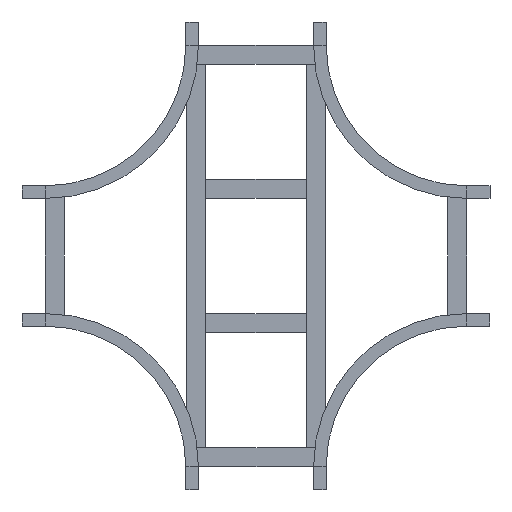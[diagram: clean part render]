
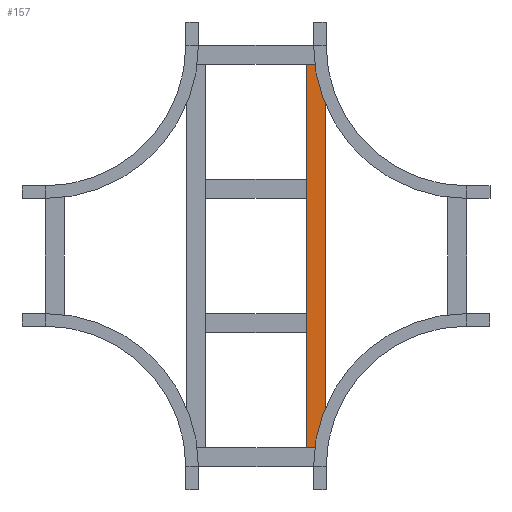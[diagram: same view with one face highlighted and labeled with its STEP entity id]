
A CAD part, front view. The second image highlights one B-rep face of the part: STEP entity #157.
In plain terms, the highlighted planar face has unit normal (0, -1, 0).
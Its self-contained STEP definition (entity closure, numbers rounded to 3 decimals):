
#7 = CARTESIAN_POINT ( 'NONE',  ( 409.5, 0., 20.25 ) ) ;
#18 = ORIENTED_EDGE ( 'NONE', *, *, #990, .F. ) ;
#107 = VECTOR ( 'NONE', #545, 1000. ) ;
#113 = LINE ( 'NONE', #1317, #107 ) ;
#122 = VERTEX_POINT ( 'NONE', #311 ) ;
#150 = ORIENTED_EDGE ( 'NONE', *, *, #1360, .F. ) ;
#157 = ADVANCED_FACE ( 'NONE', ( #414 ), #516, .F. ) ;
#226 = CARTESIAN_POINT ( 'NONE',  ( 409.5, 0., 20.25 ) ) ;
#286 = DIRECTION ( 'NONE',  ( 0., 1., 0. ) ) ;
#311 = CARTESIAN_POINT ( 'NONE',  ( -409.5, 0., 20.25 ) ) ;
#321 = VECTOR ( 'NONE', #617, 1000. ) ;
#339 = AXIS2_PLACEMENT_3D ( 'NONE', #1297, #286, #1289 ) ;
#346 = ORIENTED_EDGE ( 'NONE', *, *, #1155, .T. ) ;
#414 = FACE_OUTER_BOUND ( 'NONE', #1001, .T. ) ;
#432 = CARTESIAN_POINT ( 'NONE',  ( -409.5, 0., -20.25 ) ) ;
#501 = LINE ( 'NONE', #627, #321 ) ;
#516 = PLANE ( 'NONE',  #339 ) ;
#535 = VECTOR ( 'NONE', #585, 1000. ) ;
#545 = DIRECTION ( 'NONE',  ( -1., 0., 0. ) ) ;
#548 = LINE ( 'NONE', #7, #965 ) ;
#557 = VERTEX_POINT ( 'NONE', #432 ) ;
#566 = CARTESIAN_POINT ( 'NONE',  ( 409.5, 0., 20.25 ) ) ;
#585 = DIRECTION ( 'NONE',  ( -1., 0., 0. ) ) ;
#617 = DIRECTION ( 'NONE',  ( 0., 0., -1. ) ) ;
#627 = CARTESIAN_POINT ( 'NONE',  ( -409.5, 0., 20.25 ) ) ;
#680 = ORIENTED_EDGE ( 'NONE', *, *, #1274, .T. ) ;
#790 = LINE ( 'NONE', #566, #535 ) ;
#908 = VERTEX_POINT ( 'NONE', #226 ) ;
#965 = VECTOR ( 'NONE', #1103, 1000. ) ;
#990 = EDGE_CURVE ( 'NONE', #908, #1199, #548, .T. ) ;
#1001 = EDGE_LOOP ( 'NONE', ( #680, #150, #18, #346 ) ) ;
#1103 = DIRECTION ( 'NONE',  ( 0., 0., -1. ) ) ;
#1155 = EDGE_CURVE ( 'NONE', #908, #122, #790, .T. ) ;
#1199 = VERTEX_POINT ( 'NONE', #1356 ) ;
#1274 = EDGE_CURVE ( 'NONE', #122, #557, #501, .T. ) ;
#1289 = DIRECTION ( 'NONE',  ( 0., 0., 1. ) ) ;
#1297 = CARTESIAN_POINT ( 'NONE',  ( 409.5, 0., 20.25 ) ) ;
#1317 = CARTESIAN_POINT ( 'NONE',  ( 409.5, 0., -20.25 ) ) ;
#1356 = CARTESIAN_POINT ( 'NONE',  ( 409.5, 0., -20.25 ) ) ;
#1360 = EDGE_CURVE ( 'NONE', #1199, #557, #113, .T. ) ;
